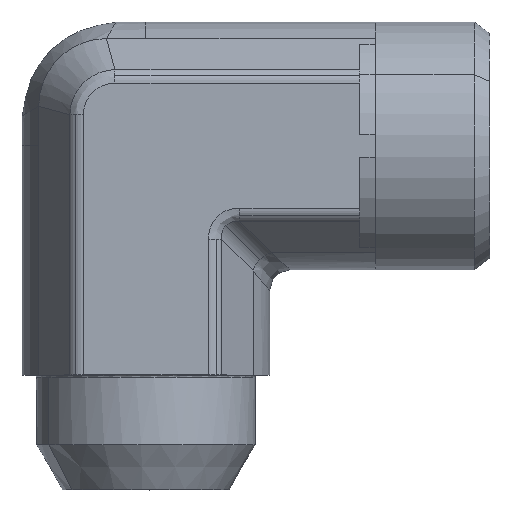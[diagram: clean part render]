
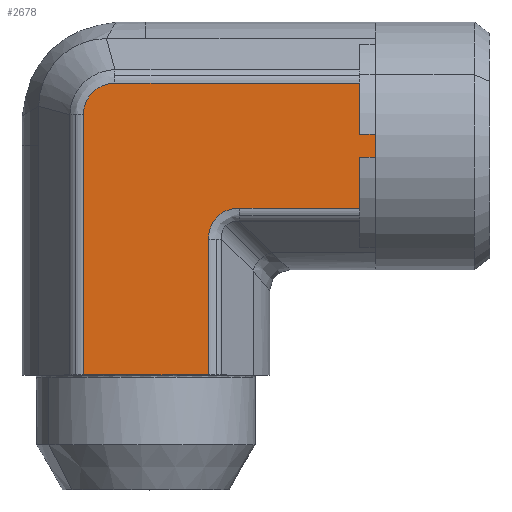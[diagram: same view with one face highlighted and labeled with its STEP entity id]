
A CAD part, top view. The second image highlights one B-rep face of the part: STEP entity #2678.
In plain terms, the highlighted planar face has unit normal (0, 0, 1) as drawn and (0, -1, 0) by its records, which use the part's own axes.
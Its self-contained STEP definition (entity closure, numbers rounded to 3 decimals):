
#361=CARTESIAN_POINT('',(4.521,-11.875,5.99));
#362=VERTEX_POINT('',#361);
#370=CARTESIAN_POINT('',(17.5,-11.875,5.99));
#371=VERTEX_POINT('',#370);
#372=CARTESIAN_POINT('',(4.521,-11.875,5.99));
#373=DIRECTION('',(1.0,0.0,0.0));
#374=VECTOR('',#373,12.979);
#375=LINE('',#372,#374);
#376=EDGE_CURVE('',#362,#371,#375,.T.);
#485=CARTESIAN_POINT('',(-10.49,-11.875,-2.973));
#486=VERTEX_POINT('',#485);
#494=CARTESIAN_POINT('',(-10.49,-11.875,20.5));
#495=VERTEX_POINT('',#494);
#496=CARTESIAN_POINT('',(-10.49,-11.875,-2.973));
#497=DIRECTION('',(0.0,0.0,1.0));
#498=VECTOR('',#497,23.473);
#499=LINE('',#496,#498);
#500=EDGE_CURVE('',#486,#495,#499,.T.);
#735=CARTESIAN_POINT('',(-4.5,-11.875,22.));
#736=VERTEX_POINT('',#735);
#1709=CARTESIAN_POINT('',(17.5,-11.875,-5.99));
#1710=VERTEX_POINT('',#1709);
#1711=CARTESIAN_POINT('',(17.5,-11.875,-5.99));
#1712=DIRECTION('',(0.0,0.0,1.0));
#1713=VECTOR('',#1712,11.98);
#1714=LINE('',#1711,#1713);
#1715=EDGE_CURVE('',#1710,#371,#1714,.T.);
#2186=CARTESIAN_POINT('',(1.49,-11.875,20.5));
#2187=VERTEX_POINT('',#2186);
#2188=CARTESIAN_POINT('',(-3.409,-11.875,20.5));
#2189=VERTEX_POINT('',#2188);
#2190=CARTESIAN_POINT('',(1.49,-11.875,20.5));
#2191=DIRECTION('',(-1.0,0.0,0.0));
#2192=VECTOR('',#2191,4.899);
#2193=LINE('',#2190,#2192);
#2194=EDGE_CURVE('',#2187,#2189,#2193,.T.);
#2243=CARTESIAN_POINT('',(-5.591,-11.875,20.5));
#2244=VERTEX_POINT('',#2243);
#2245=CARTESIAN_POINT('',(-5.591,-11.875,20.5));
#2246=DIRECTION('',(-1.0,0.0,0.0));
#2247=VECTOR('',#2246,4.899);
#2248=LINE('',#2245,#2247);
#2249=EDGE_CURVE('',#2244,#495,#2248,.T.);
#2348=CARTESIAN_POINT('',(-3.409,-11.875,22.0));
#2349=VERTEX_POINT('',#2348);
#2350=CARTESIAN_POINT('',(-3.409,-11.875,20.5));
#2351=DIRECTION('',(0.0,0.0,1.0));
#2352=VECTOR('',#2351,1.5);
#2353=LINE('',#2350,#2352);
#2354=EDGE_CURVE('',#2189,#2349,#2353,.T.);
#2382=CARTESIAN_POINT('',(-5.591,-11.875,22.0));
#2383=VERTEX_POINT('',#2382);
#2384=CARTESIAN_POINT('',(-5.591,-11.875,22.0));
#2385=DIRECTION('',(0.0,0.0,-1.0));
#2386=VECTOR('',#2385,1.5);
#2387=LINE('',#2384,#2386);
#2388=EDGE_CURVE('',#2383,#2244,#2387,.T.);
#2598=CARTESIAN_POINT('',(-4.5,-11.875,22.));
#2599=DIRECTION('',(-1.0,0.0,0.0));
#2600=VECTOR('',#2599,1.091);
#2601=LINE('',#2598,#2600);
#2602=EDGE_CURVE('',#736,#2383,#2601,.T.);
#2621=CARTESIAN_POINT('',(-4.5,-11.875,-3.175));
#2622=DIRECTION('',(0.0,-1.0,0.0));
#2623=DIRECTION('',(0.0,0.0,-1.0));
#2624=AXIS2_PLACEMENT_3D('',#2621,#2622,#2623);
#2625=PLANE('',#2624);
#2626=ORIENTED_EDGE('',*,*,#2388,.T.);
#2627=ORIENTED_EDGE('',*,*,#2249,.T.);
#2628=ORIENTED_EDGE('',*,*,#500,.F.);
#2629=CARTESIAN_POINT('',(-7.473,-11.875,-5.99));
#2630=VERTEX_POINT('',#2629);
#2631=CARTESIAN_POINT('',(-10.49,-11.875,-2.973));
#2632=CARTESIAN_POINT('',(-10.49,-11.875,-3.17));
#2633=CARTESIAN_POINT('',(-10.471,-11.875,-3.368));
#2634=CARTESIAN_POINT('',(-10.369,-11.875,-3.873));
#2635=CARTESIAN_POINT('',(-10.259,-11.875,-4.171));
#2636=CARTESIAN_POINT('',(-9.855,-11.875,-4.889));
#2637=CARTESIAN_POINT('',(-9.496,-11.875,-5.266));
#2638=CARTESIAN_POINT('',(-8.588,-11.875,-5.831));
#2639=CARTESIAN_POINT('',(-8.031,-11.875,-5.99));
#2640=CARTESIAN_POINT('',(-7.473,-11.875,-5.99));
#2641=B_SPLINE_CURVE_WITH_KNOTS('',3,(#2631,#2632,#2633,#2634,#2635,#2636,#2637,#2638,#2639,#2640),.UNSPECIFIED.,.F.,.U.,(4,2,2,2,4),(-4.713,-4.124,-3.181,-1.673,0.0),.UNSPECIFIED.);
#2642=EDGE_CURVE('',#2630,#486,#2641,.F.);
#2643=ORIENTED_EDGE('',*,*,#2642,.F.);
#2644=CARTESIAN_POINT('',(17.5,-11.875,-5.99));
#2645=DIRECTION('',(-1.0,0.0,0.0));
#2646=VECTOR('',#2645,24.973);
#2647=LINE('',#2644,#2646);
#2648=EDGE_CURVE('',#1710,#2630,#2647,.T.);
#2649=ORIENTED_EDGE('',*,*,#2648,.F.);
#2650=ORIENTED_EDGE('',*,*,#1715,.T.);
#2651=ORIENTED_EDGE('',*,*,#376,.F.);
#2652=CARTESIAN_POINT('',(1.49,-11.875,9.021));
#2653=VERTEX_POINT('',#2652);
#2654=CARTESIAN_POINT('',(5.531,-11.875,10.031));
#2655=DIRECTION('',(0.,-1.,0.));
#2656=DIRECTION('',(-0.707,0.,-0.707));
#2657=AXIS2_PLACEMENT_3D('',#2654,#2655,#2656);
#2658=ELLIPSE('',#2657,4.518,3.5);
#2659=EDGE_CURVE('',#2653,#362,#2658,.T.);
#2660=ORIENTED_EDGE('',*,*,#2659,.F.);
#2661=CARTESIAN_POINT('',(1.49,-11.875,20.5));
#2662=DIRECTION('',(0.0,0.0,-1.0));
#2663=VECTOR('',#2662,11.479);
#2664=LINE('',#2661,#2663);
#2665=EDGE_CURVE('',#2187,#2653,#2664,.T.);
#2666=ORIENTED_EDGE('',*,*,#2665,.F.);
#2667=ORIENTED_EDGE('',*,*,#2194,.T.);
#2668=ORIENTED_EDGE('',*,*,#2354,.T.);
#2669=CARTESIAN_POINT('',(-3.409,-11.875,22.0));
#2670=DIRECTION('',(-1.0,0.0,0.0));
#2671=VECTOR('',#2670,1.091);
#2672=LINE('',#2669,#2671);
#2673=EDGE_CURVE('',#2349,#736,#2672,.T.);
#2674=ORIENTED_EDGE('',*,*,#2673,.T.);
#2675=ORIENTED_EDGE('',*,*,#2602,.T.);
#2676=EDGE_LOOP('',(#2626,#2627,#2628,#2643,#2649,#2650,#2651,#2660,#2666,#2667,#2668,#2674,#2675));
#2677=FACE_OUTER_BOUND('',#2676,.T.);
#2678=ADVANCED_FACE('',(#2677),#2625,.T.);
